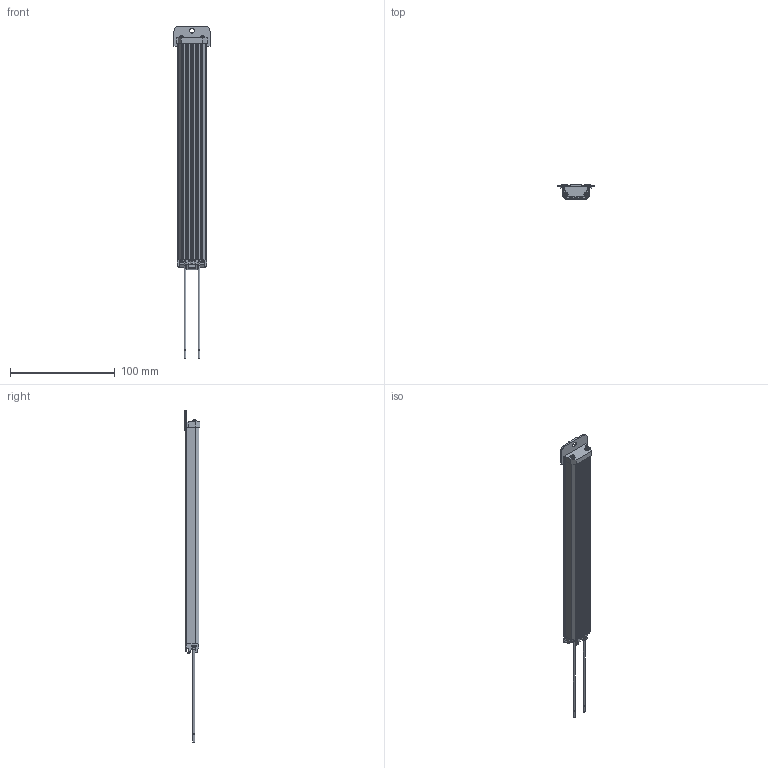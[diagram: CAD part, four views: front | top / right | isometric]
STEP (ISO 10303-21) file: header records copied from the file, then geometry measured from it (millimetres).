
FILE_DESCRIPTION(/* description */ ('Unknown'),/* implementation_level */ '2;1');
FILE_NAME(/* name */ '020-52V-06',/* time_stamp */ '2026-06-11T08:34:01+02:00',/* author */ ('Unknown'),/* organization */ ('Unknown'),/* preprocessor_version */ 'ST-DEVELOPER v16.7',/* originating_system */ 'Solid Edge',/* authorisation */ 'Unknown');
FILE_SCHEMA (('AUTOMOTIVE_DESIGN {1 0 10303 214 3 1 1}'));
Length unit declared in the file: millimetre
Products named in the file (8): 020-52V-06; 020-50J-03; 01V-N5S-02; 01Z-M00-05; 020-50K-06; 020-50C-08; 01V-Q0F-01; 020-50D-06
Assembly tree (11 placements, depth 3):
  020-52V-06
    020-50J-03
      01V-N5S-02
      01Z-M00-05  x2
    020-50K-06
    020-50C-08
    01V-Q0F-01  x4
    020-50D-06
Bounding box: 34.4 x 15.15 x 316.25 mm (x, y, z)
Volume: 25289.3 mm3; surface area: 40364.5 mm2
Topology: 37 solids, 37 shells, 1328 faces, 3446 edges, 2285 vertices
Faces by surface type: plane 1128, cylinder 172, torus 12, bspline 7, cone 5, sphere 4
Full cylindrical faces by diameter (mm): 0.8 x2, 1.65 x8, 2 x8, 2.2 x4, 4 x4, 4.5 x1
Entity records: 43945 total; most frequent: CARTESIAN_POINT 6868, ORIENTED_EDGE 6268, DIRECTION 5720, EDGE_CURVE 3134, LINE 2776, VECTOR 2776, VERTEX_POINT 2095, AXIS2_PLACEMENT_3D 1472
